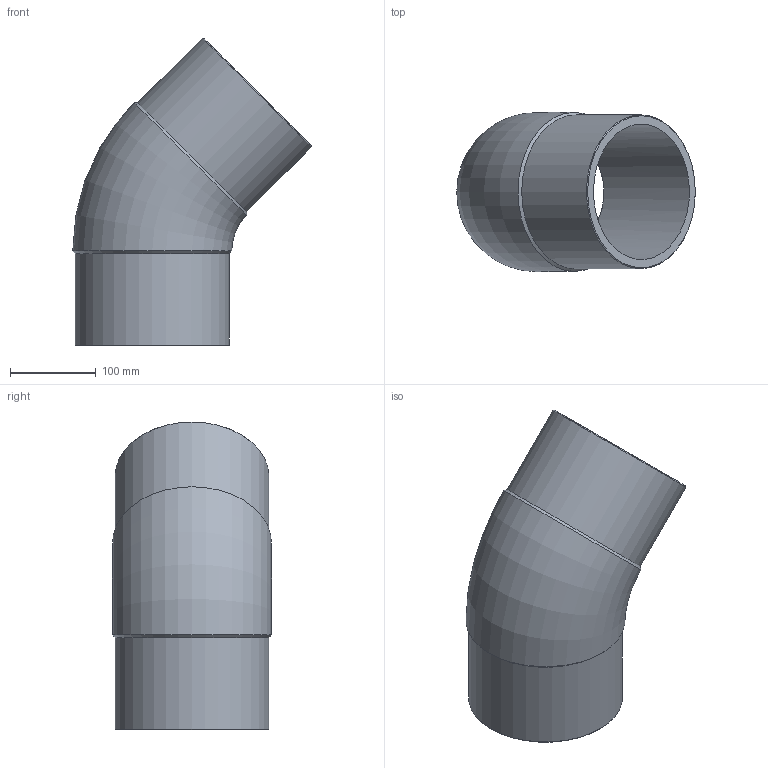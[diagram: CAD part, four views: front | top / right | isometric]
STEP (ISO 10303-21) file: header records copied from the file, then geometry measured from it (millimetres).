
FILE_DESCRIPTION(/* description */ ('Unknown'),/* implementation_level */ '2;1');
FILE_NAME(/* name */ 'G4P180B',/* time_stamp */ '2022-01-21T15:15:28+01:00',/* author */ ('Unknown'),/* organization */ ('Unknown'),/* preprocessor_version */ 'ST-DEVELOPER v18.1',/* originating_system */ 'Solid Edge',/* authorisation */ 'Unknown');
FILE_SCHEMA (('AUTOMOTIVE_DESIGN {1 0 10303 214 3 1 1}'));
Length unit declared in the file: millimetre
Products named in the file (1): G4P180B
Bounding box: 278.97 x 186 x 359.97 mm (x, y, z)
Volume: 2182404.1 mm3; surface area: 377768.4 mm2
Topology: 1 solids, 1 shells, 12 faces, 30 edges, 20 vertices
Faces by surface type: cone 4, cylinder 4, plane 2, torus 2
Full cylindrical faces by diameter (mm): 158.6 x2, 180 x2
Entity records: 328 total; most frequent: CARTESIAN_POINT 62, DIRECTION 52, ORIENTED_EDGE 34, AXIS2_PLACEMENT_3D 26, EDGE_LOOP 23, FACE_BOUND 23, EDGE_CURVE 17, VERTEX_POINT 16
